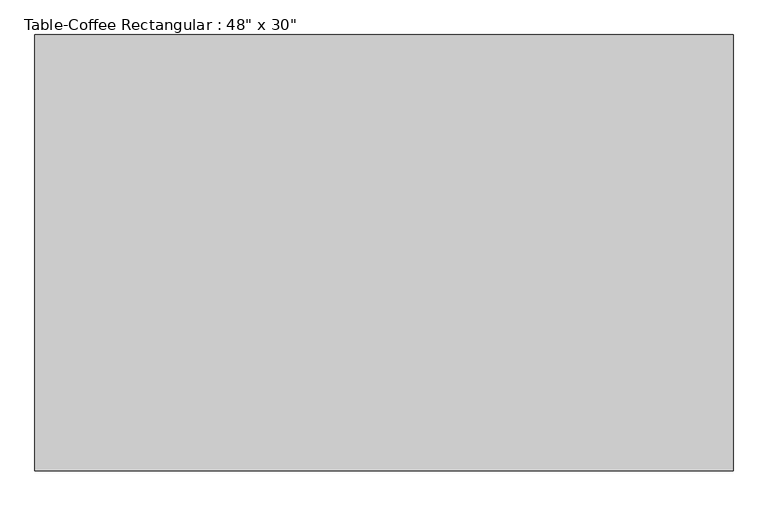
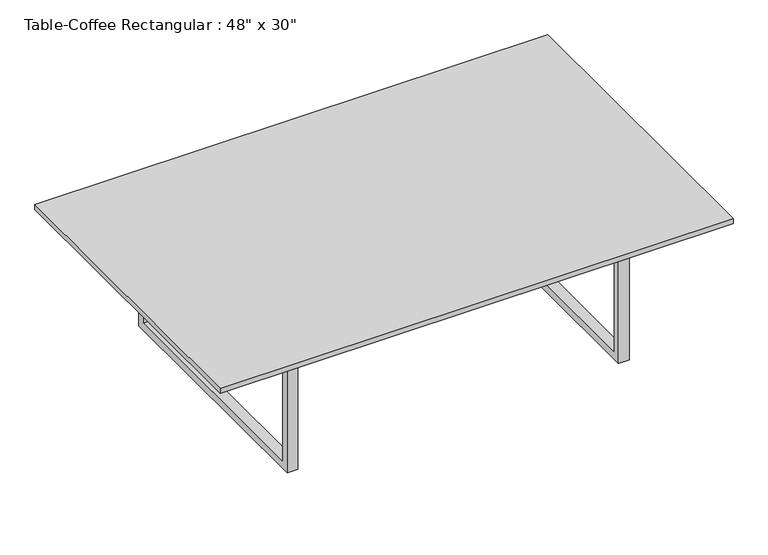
"""IFC4 building model written with IfcOpenShell, lengths in millimetres: furniture geometry."""

from ifc_helpers import new_model, si_unit, frame, origin, place, context, project, spatial, polyline, outline, extrude, source, transform, mapped, element, save


def furniture_102613a1(model_context):
    return source(origin(), model_context, "Body", "SweptSolid", [
        extrude(outline(polyline([(994.3336303, 379.1358318), (994.3336303, 360.0858318), (232.3336303, 360.0858318), (232.3336303, 379.1358318), (994.3336303, 379.1358318)])), frame((0.0, 0.0, 298.45), z_axis=(0.0, 0.0, 1.0), x_axis=(1.0, 0.0, 0.0)), (0.0, 0.0, 1.0), 19.05),
        extrude(outline(polyline([(64.8108318, 317.5), (674.4108318, 317.5), (674.4108318, 0.0), (64.8108318, 0.0), (64.8108318, 317.5)]), holes=[polyline([(83.8608318, 298.45), (83.8608318, 19.05), (655.3608318, 19.05), (655.3608318, 298.45), (83.8608318, 298.45)])]), frame((994.3336303, 0.0, 0.0), z_axis=(1.0, 0.0, 0.0), x_axis=(0.0, 1.0, 0.0)), (0.0, 0.0, 1.0), 25.4),
        extrude(outline(polyline([(64.8108318, 317.5), (674.4108318, 317.5), (674.4108318, 0.0), (64.8108318, 0.0), (64.8108318, 317.5)]), holes=[polyline([(83.8608318, 298.45), (83.8608318, 19.05), (655.3608318, 19.05), (655.3608318, 298.45), (83.8608318, 298.45)])]), frame((206.9336303, 0.0, 0.0), z_axis=(1.0, 0.0, 0.0), x_axis=(0.0, 1.0, 0.0)), (0.0, 0.0, 1.0), 25.4),
        extrude(outline(polyline([(1222.9336303, 750.6108318), (1222.9336303, -11.3891682), (3.7336303, -11.3891682), (3.7336303, 750.6108318), (1222.9336303, 750.6108318)])), frame((0.0, 0.0, 317.5), z_axis=(0.0, 0.0, 1.0), x_axis=(1.0, 0.0, 0.0)), (0.0, 0.0, 1.0), 12.7),
    ])


if __name__ == "__main__":
    model = new_model("IFC4")
    model_context = context("Model", 3, world=origin())
    ifc_project = project(units=[si_unit("LENGTHUNIT", "METRE", prefix="MILLI")], contexts=[model_context])
    site = spatial("IfcSite", under=ifc_project)
    building = spatial("IfcBuilding", under=site)
    placement = place(None, origin())
    furniture_shape = furniture_102613a1(model_context)
    element("IfcFurniture", 1, ObjectType="Table-Coffee Rectangular : 48\" x 30\"", at=placement, inside=building, context=model_context, shape_type="MappedRepresentation", body=[
        mapped(furniture_shape, transform((0.0, 0.0, 0.0), x_axis=(1.0, 0.0, 0.0), y_axis=(0.0, 1.0, 0.0), z_axis=(0.0, 0.0, 1.0))),
    ])
    save(model, "model.ifc")
